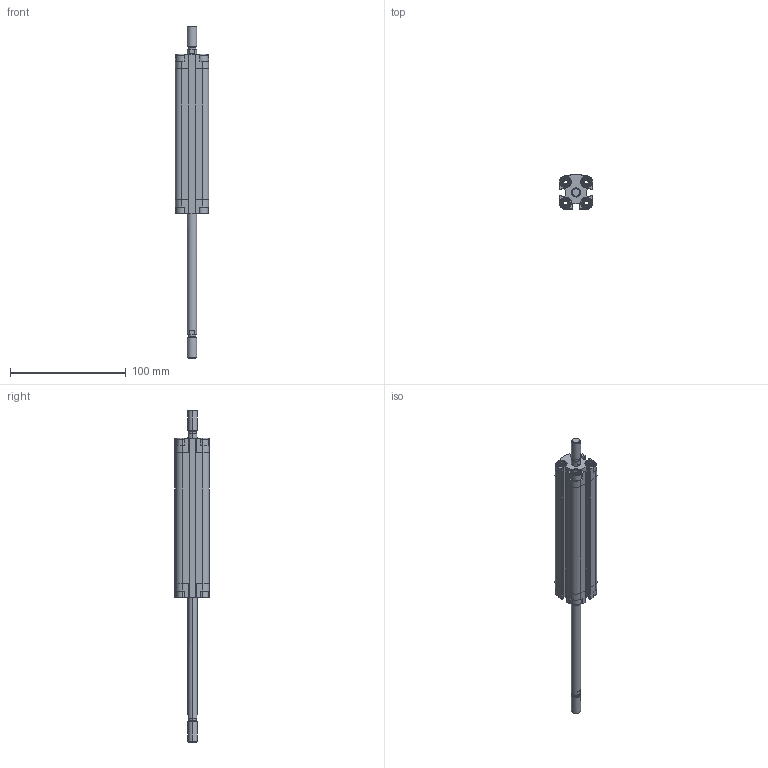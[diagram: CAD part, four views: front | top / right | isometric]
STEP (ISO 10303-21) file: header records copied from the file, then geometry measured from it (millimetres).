
FILE_DESCRIPTION (( 'STEP AP203' ), '1' );
FILE_NAME ('CDVU16-100M-P.STEP', '2020-07-21T15:05:39', ( '' ), ( '' ), 'SwSTEP 2.0', 'SolidWorks 2019', '' );
FILE_SCHEMA (( 'CONFIG_CONTROL_DESIGN' ));
Length unit declared in the file: millimetre
Products named in the file (1): CDVU16-100M-P
Bounding box: 29 x 30 x 287 mm (x, y, z)
Volume: 78029.6 mm3; surface area: 46750.1 mm2
Topology: 2 solids, 2 shells, 566 faces, 1504 edges, 978 vertices
Faces by surface type: plane 338, cylinder 164, cone 48, torus 16
Entity records: 17771 total; most frequent: CARTESIAN_POINT 3621, ORIENTED_EDGE 3000, DIRECTION 2850, EDGE_CURVE 1500, VERTEX_POINT 978, AXIS2_PLACEMENT_3D 975, VECTOR 900, LINE 900
